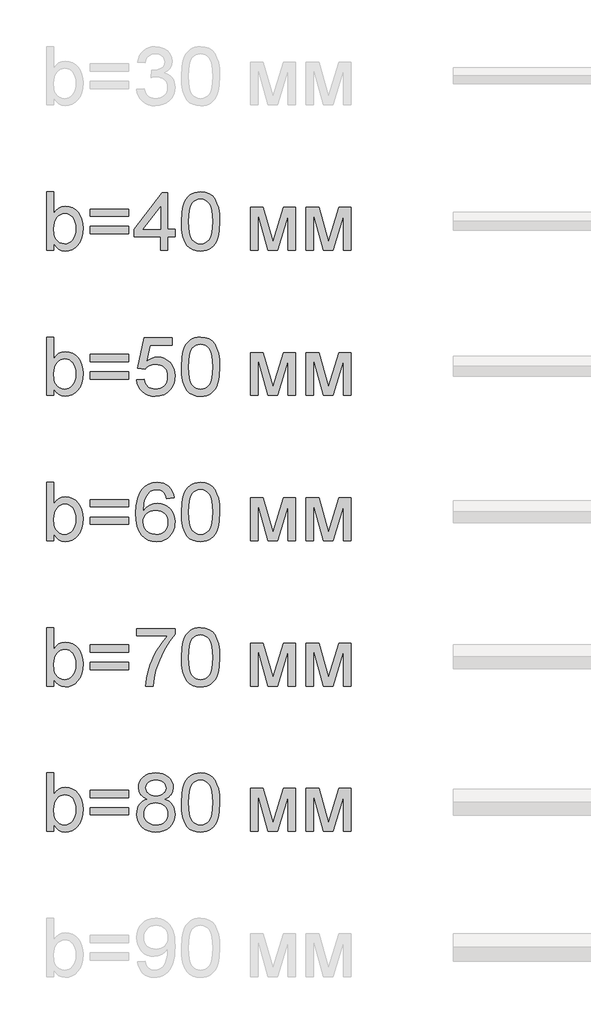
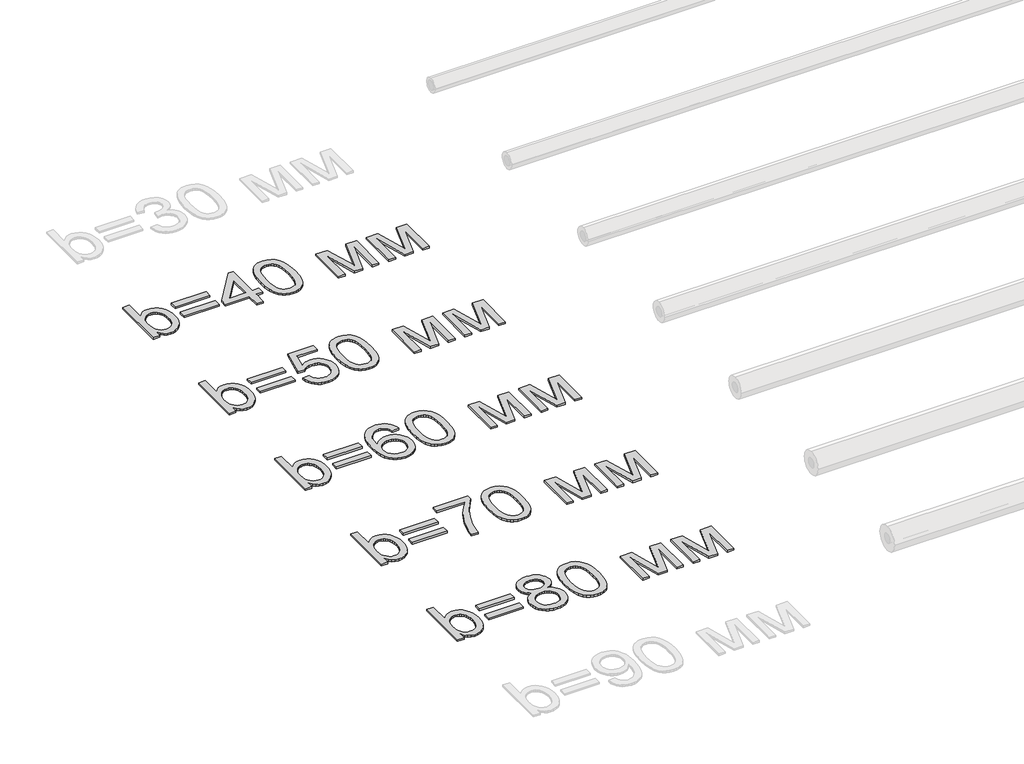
# One storey, part 58 of 86: 5 proxies.
"""IFC4 building model written with IfcOpenShell, lengths in millimetres."""

from ifc_helpers import new_model, si_unit, origin, origin_with_axes, place, context, project, spatial, polyline, outline, extrude, element, save

model = new_model("IFC4")

# Units and contexts
model_context = context("Model", 3, world=origin())
ifc_project = project(units=[si_unit("LENGTHUNIT", "METRE", prefix="MILLI")], contexts=[model_context])

# Site, building, storey
site = spatial("IfcSite", under=ifc_project)
building = spatial("IfcBuilding", under=site)
storey = spatial("IfcBuildingStorey", under=building, Name="Уровень 1", Elevation=0.0)

# Proxies
placement = place(None, origin())
element("IfcBuildingElementProxy", 1, Name="Текст модели 1", ObjectType="Текст модели 1", at=placement, inside=storey, context=model_context, shape_type="SweptSolid", body=[
    extrude(outline(polyline([(23159.6307988, 54669.2937088), (23084.2885662, 54669.2937088), (23084.2885662, 55272.0315697), (23159.6307988, 55272.0315697), (23159.6307988, 55048.5064694), (23184.4076512, 55080.3742473), (23212.3850769, 55103.1369457), (23243.563076, 55116.7945648), (23277.9416484, 55121.3471045), (23316.7531989, 55117.2452202), (23353.4310339, 55104.9395675), (23385.8782258, 55085.2026984), (23411.9978475, 55058.8071653), (23432.4704805, 55026.0104854), (23447.9767066, 54987.0701762), (23457.7439736, 54943.6049185), (23460.9997292, 54897.233393), (23457.6290105, 54843.7249568), (23447.5168541, 54796.6544555), (23430.6632602, 54756.0218892), (23407.0682288, 54721.8272577), (23378.7459136, 54694.7235517), (23347.7104688, 54675.3637617), (23313.9618943, 54663.7478877), (23277.50019, 54659.8759297), (23241.9903805, 54664.8699278), (23210.5088787, 54679.8519221), (23183.0556848, 54704.8219125), (23159.6307988, 54739.7798991), (23159.6307988, 54669.2937088)]), holes=[polyline([(23159.6307988, 54893.7017259), (23164.7811467, 54830.8674811), (23171.2190816, 54807.065516), (23180.2321905, 54788.3403224), (23198.4883345, 54765.0993774), (23219.7059286, 54748.4987024), (23243.8849727, 54738.5382973), (23271.0254669, 54735.2181623), (23293.5582391, 54737.6645776), (23314.5091188, 54745.0038234), (23333.8781058, 54757.2358997), (23351.6652003, 54774.3608066), (23366.5368299, 54796.3325588), (23377.1594225, 54823.105171), (23383.5329781, 54854.6786432), (23385.6574966, 54891.0529755), (23383.6203501, 54928.1170865), (23377.5089104, 54959.9940614), (23367.3231777, 54986.6839001), (23353.0631519, 55008.1866028), (23335.9152524, 55024.7320955), (23317.0658986, 55036.5503046), (23296.5150907, 55043.64123), (23274.2628285, 55046.0048719), (23251.7300563, 55043.5584566), (23230.7791767, 55036.2192108), (23211.4101896, 55023.9871344), (23193.6230951, 55006.8622276), (23178.7514655, 54985.1112046), (23168.1288729, 54959.00078), (23161.7553173, 54928.5309538), (23159.6307988, 54893.7017259)])]), origin_with_axes(), (0.0, 0.0, 1.0), 20.0),
    extrude(outline(polyline([(23931.8886831, 55017.7515346), (23536.3419619, 55017.7515346), (23536.3419619, 55093.0937672), (23931.8886831, 55093.0937672), (23931.8886831, 55017.7515346)])), origin_with_axes(), (0.0, 0.0, 1.0), 20.0),
    extrude(outline(polyline([(23931.8886831, 54838.8137322), (23536.3419619, 54838.8137322), (23536.3419619, 54914.1559648), (23931.8886831, 54914.1559648), (23931.8886831, 54838.8137322)])), origin_with_axes(), (0.0, 0.0, 1.0), 20.0),
    extrude(outline(polyline([(24261.5109507, 54669.2937088), (24261.5109507, 54810.5603949), (23988.3953575, 54810.5603949), (23988.3953575, 54885.9026276), (24280.3465089, 55262.6137906), (24336.8531834, 55262.6137906), (24336.8531834, 54885.9026276), (24412.195416, 54885.9026276), (24412.195416, 54810.5603949), (24336.8531834, 54810.5603949), (24336.8531834, 54669.2937088), (24261.5109507, 54669.2937088)]), holes=[polyline([(24261.5109507, 54885.9026276), (24261.5109507, 55118.6983541), (24081.1016203, 54885.9026276), (24261.5109507, 54885.9026276)])]), origin_with_axes(), (0.0, 0.0, 1.0), 20.0),
    extrude(outline(polyline([(24478.1198695, 54965.8065969), (24483.6564935, 55062.2836501), (24490.5772736, 55103.1967265), (24500.2663656, 55139.2261694), (24512.682383, 55170.6662845), (24527.7839389, 55197.8113772), (24545.5710333, 55220.6614476), (24566.0436664, 55239.2164957), (24589.2708158, 55253.5730906), (24615.3214596, 55263.8278012), (24644.1955977, 55269.9806276), (24675.8932301, 55272.0315697), (24722.3199379, 55267.1755274), (24763.8906034, 55252.6074004), (24798.6554519, 55228.8974058), (24824.664709, 55196.6157607), (24844.3096075, 55156.0383766), (24859.9813805, 55107.4411651), (24870.2452882, 55045.7289604), (24873.6665907, 54965.8065969), (24868.185149, 54869.8813667), (24861.3333468, 54829.106246), (24851.7408238, 54793.1227884), (24839.4213755, 54761.6688778), (24824.3887975, 54734.4823983), (24806.6430897, 54711.56335), (24786.1842523, 54692.9117329), (24762.9295116, 54678.458569), (24736.7960944, 54668.1348805), (24707.7840006, 54661.9406674), (24675.8932301, 54659.8759297), (24634.3961411, 54663.4627792), (24597.6079415, 54674.2233275), (24565.5286316, 54692.1575748), (24538.1582111, 54717.265521), (24511.8914367, 54762.6529621), (24493.1294549, 54819.2056218), (24481.8722659, 54886.9235001), (24478.1198695, 54965.8065969)]), holes=[polyline([(24553.4621021, 54965.9537497), (24555.6693941, 54900.456959), (24562.29127, 54847.440565), (24573.3277299, 54806.9045676), (24588.7787737, 54778.848967), (24607.467179, 54759.7604899), (24628.2157235, 54746.1258635), (24651.0244072, 54737.9450876), (24675.8932301, 54735.2181623), (24700.762053, 54737.9542847), (24723.5707367, 54746.1626517), (24744.3192812, 54759.8432634), (24763.0076866, 54778.9961198), (24778.4587304, 54807.0977057), (24789.4951902, 54847.624506), (24796.1170661, 54900.5765206), (24798.3243581, 54965.9537497), (24796.1906425, 55029.7168965), (24789.7894958, 55081.79979), (24779.120918, 55122.2024301), (24764.184909, 55150.9248169), (24745.8092033, 55170.9467945), (24724.8215355, 55185.248207), (24701.2219055, 55193.8290546), (24675.0103133, 55196.6893371), (24650.2702492, 55194.1693454), (24627.8478415, 55186.6093704), (24607.7430905, 55174.0094121), (24589.955996, 55156.3694704), (24573.9899175, 55125.0995008), (24562.5855756, 55082.9402242), (24555.7429705, 55029.8916405), (24553.4621021, 54965.9537497)])]), origin_with_axes(), (0.0, 0.0, 1.0), 20.0),
    extrude(outline(polyline([(25193.8710793, 55111.9293254), (25323.5126944, 55111.9293254), (25423.4294443, 54757.5853876), (25531.1452925, 55111.9293254), (25655.3422541, 55111.9293254), (25655.3422541, 54669.2937088), (25580.0000215, 54669.2937088), (25580.0000215, 55025.6977857), (25471.6955621, 54669.2937088), (25372.8088818, 54669.2937088), (25269.2133119, 55042.7675103), (25269.2133119, 54669.2937088), (25193.8710793, 54669.2937088), (25193.8710793, 55111.9293254)])), origin_with_axes(), (0.0, 0.0, 1.0), 20.0),
    extrude(outline(polyline([(25768.355603, 55111.9293254), (25897.9972181, 55111.9293254), (25997.913968, 54757.5853876), (26105.6298162, 55111.9293254), (26229.8267777, 55111.9293254), (26229.8267777, 54669.2937088), (26154.4845451, 54669.2937088), (26154.4845451, 55025.6977857), (26046.1800857, 54669.2937088), (25947.2934054, 54669.2937088), (25843.6978356, 55042.7675103), (25843.6978356, 54669.2937088), (25768.355603, 54669.2937088), (25768.355603, 55111.9293254)])), origin_with_axes(), (0.0, 0.0, 1.0), 20.0),
])
element("IfcBuildingElementProxy", 2, Name="Текст модели 1", ObjectType="Текст модели 1", at=placement, inside=storey, context=model_context, shape_type="SweptSolid", body=[
    extrude(outline(polyline([(23159.6307988, 53169.2937088), (23084.2885662, 53169.2937088), (23084.2885662, 53772.0315697), (23159.6307988, 53772.0315697), (23159.6307988, 53548.5064694), (23184.4076512, 53580.3742473), (23212.3850769, 53603.1369457), (23243.563076, 53616.7945648), (23277.9416484, 53621.3471045), (23316.7531989, 53617.2452202), (23353.4310339, 53604.9395675), (23385.8782258, 53585.2026984), (23411.9978475, 53558.8071653), (23432.4704805, 53526.0104854), (23447.9767066, 53487.0701762), (23457.7439736, 53443.6049185), (23460.9997292, 53397.233393), (23457.6290105, 53343.7249568), (23447.5168541, 53296.6544555), (23430.6632602, 53256.0218892), (23407.0682288, 53221.8272577), (23378.7459136, 53194.7235517), (23347.7104688, 53175.3637617), (23313.9618943, 53163.7478877), (23277.50019, 53159.8759297), (23241.9903805, 53164.8699278), (23210.5088787, 53179.8519221), (23183.0556848, 53204.8219125), (23159.6307988, 53239.7798991), (23159.6307988, 53169.2937088)]), holes=[polyline([(23159.6307988, 53393.7017259), (23164.7811467, 53330.8674811), (23171.2190816, 53307.065516), (23180.2321905, 53288.3403224), (23198.4883345, 53265.0993774), (23219.7059286, 53248.4987024), (23243.8849727, 53238.5382973), (23271.0254669, 53235.2181623), (23293.5582391, 53237.6645776), (23314.5091188, 53245.0038234), (23333.8781058, 53257.2358997), (23351.6652003, 53274.3608066), (23366.5368299, 53296.3325588), (23377.1594225, 53323.105171), (23383.5329781, 53354.6786432), (23385.6574966, 53391.0529755), (23383.6203501, 53428.1170865), (23377.5089104, 53459.9940614), (23367.3231777, 53486.6839001), (23353.0631519, 53508.1866028), (23335.9152524, 53524.7320955), (23317.0658986, 53536.5503046), (23296.5150907, 53543.64123), (23274.2628285, 53546.0048719), (23251.7300563, 53543.5584566), (23230.7791767, 53536.2192108), (23211.4101896, 53523.9871344), (23193.6230951, 53506.8622276), (23178.7514655, 53485.1112046), (23168.1288729, 53459.00078), (23161.7553173, 53428.5309538), (23159.6307988, 53393.7017259)])]), origin_with_axes(), (0.0, 0.0, 1.0), 20.0),
    extrude(outline(polyline([(23931.8886831, 53517.7515346), (23536.3419619, 53517.7515346), (23536.3419619, 53593.0937672), (23931.8886831, 53593.0937672), (23931.8886831, 53517.7515346)])), origin_with_axes(), (0.0, 0.0, 1.0), 20.0),
    extrude(outline(polyline([(23931.8886831, 53338.8137322), (23536.3419619, 53338.8137322), (23536.3419619, 53414.1559648), (23931.8886831, 53414.1559648), (23931.8886831, 53338.8137322)])), origin_with_axes(), (0.0, 0.0, 1.0), 20.0),
    extrude(outline(polyline([(24016.6486948, 53329.3959531), (24091.9909274, 53338.8137322), (24097.6195219, 53314.5933013), (24105.8232904, 53293.5826409), (24116.6022328, 53275.7817508), (24129.9563493, 53261.1906312), (24145.8580485, 53249.8276761), (24164.2797394, 53241.7112795), (24185.221422, 53236.8414416), (24208.6830962, 53235.2181623), (24237.3778919, 53237.4760381), (24262.6881731, 53244.2496653), (24284.61394, 53255.539044), (24303.1551926, 53271.3441743), (24317.8980636, 53290.8833067), (24328.4286857, 53313.3746922), (24334.7470589, 53338.8183307), (24336.8531834, 53367.2142222), (24334.8804162, 53394.0512138), (24328.9621146, 53417.9083611), (24319.0982786, 53438.7856644), (24305.2889082, 53456.6831234), (24287.4880181, 53471.0397183), (24265.6496232, 53481.2944289), (24239.7737234, 53487.4472553), (24209.8603186, 53489.4981974), (24173.3112424, 53486.2240476), (24143.7151359, 53476.4015984), (24120.0787177, 53461.3552248), (24101.4087064, 53442.409302), (24026.0664738, 53451.8270811), (24091.9909274, 53762.6137906), (24383.9420787, 53762.6137906), (24383.9420787, 53687.271558), (24152.9121858, 53687.271558), (24120.685723, 53521.2832018), (24147.2743942, 53540.3394891), (24174.5068589, 53553.951123), (24202.3831171, 53562.1181032), (24230.9031687, 53564.84043), (24267.5947992, 53561.4651127), (24301.2973885, 53551.3391608), (24332.0109366, 53534.4625743), (24359.7354435, 53510.8353531), (24382.6866814, 53481.9014342), (24399.0804228, 53449.1047543), (24408.9166677, 53412.4453135), (24412.195416, 53371.9231117), (24409.243163, 53332.8908321), (24400.3864039, 53296.5808791), (24385.6251389, 53262.993253), (24364.9593678, 53232.1279536), (24333.65261, 53200.5176931), (24297.1219279, 53177.9389357), (24255.3673214, 53164.3916812), (24208.3887906, 53159.8759297), (24169.5082623, 53162.777599), (24134.3893273, 53171.4826067), (24103.0319858, 53185.9909529), (24075.4362376, 53206.3026375), (24052.4758026, 53231.4059852), (24035.0244004, 53260.2893203), (24023.0820311, 53292.952643), (24016.6486948, 53329.3959531)])), origin_with_axes(), (0.0, 0.0, 1.0), 20.0),
    extrude(outline(polyline([(24478.1198695, 53465.8065969), (24483.6564935, 53562.2836501), (24490.5772736, 53603.1967265), (24500.2663656, 53639.2261694), (24512.682383, 53670.6662845), (24527.7839389, 53697.8113772), (24545.5710333, 53720.6614476), (24566.0436664, 53739.2164957), (24589.2708158, 53753.5730906), (24615.3214596, 53763.8278012), (24644.1955977, 53769.9806276), (24675.8932301, 53772.0315697), (24722.3199379, 53767.1755274), (24763.8906034, 53752.6074004), (24798.6554519, 53728.8974058), (24824.664709, 53696.6157607), (24844.3096075, 53656.0383766), (24859.9813805, 53607.4411651), (24870.2452882, 53545.7289604), (24873.6665907, 53465.8065969), (24868.185149, 53369.8813667), (24861.3333468, 53329.106246), (24851.7408238, 53293.1227884), (24839.4213755, 53261.6688778), (24824.3887975, 53234.4823983), (24806.6430897, 53211.56335), (24786.1842523, 53192.9117329), (24762.9295116, 53178.458569), (24736.7960944, 53168.1348805), (24707.7840006, 53161.9406674), (24675.8932301, 53159.8759297), (24634.3961411, 53163.4627792), (24597.6079415, 53174.2233275), (24565.5286316, 53192.1575748), (24538.1582111, 53217.265521), (24511.8914367, 53262.6529621), (24493.1294549, 53319.2056218), (24481.8722659, 53386.9235001), (24478.1198695, 53465.8065969)]), holes=[polyline([(24553.4621021, 53465.9537497), (24555.6693941, 53400.456959), (24562.29127, 53347.440565), (24573.3277299, 53306.9045676), (24588.7787737, 53278.848967), (24607.467179, 53259.7604899), (24628.2157235, 53246.1258635), (24651.0244072, 53237.9450876), (24675.8932301, 53235.2181623), (24700.762053, 53237.9542847), (24723.5707367, 53246.1626517), (24744.3192812, 53259.8432634), (24763.0076866, 53278.9961198), (24778.4587304, 53307.0977057), (24789.4951902, 53347.624506), (24796.1170661, 53400.5765206), (24798.3243581, 53465.9537497), (24796.1906425, 53529.7168965), (24789.7894958, 53581.79979), (24779.120918, 53622.2024301), (24764.184909, 53650.9248169), (24745.8092033, 53670.9467945), (24724.8215355, 53685.248207), (24701.2219055, 53693.8290546), (24675.0103133, 53696.6893371), (24650.2702492, 53694.1693454), (24627.8478415, 53686.6093704), (24607.7430905, 53674.0094121), (24589.955996, 53656.3694704), (24573.9899175, 53625.0995008), (24562.5855756, 53582.9402242), (24555.7429705, 53529.8916405), (24553.4621021, 53465.9537497)])]), origin_with_axes(), (0.0, 0.0, 1.0), 20.0),
    extrude(outline(polyline([(25193.8710793, 53611.9293254), (25323.5126944, 53611.9293254), (25423.4294443, 53257.5853876), (25531.1452925, 53611.9293254), (25655.3422541, 53611.9293254), (25655.3422541, 53169.2937088), (25580.0000215, 53169.2937088), (25580.0000215, 53525.6977857), (25471.6955621, 53169.2937088), (25372.8088818, 53169.2937088), (25269.2133119, 53542.7675103), (25269.2133119, 53169.2937088), (25193.8710793, 53169.2937088), (25193.8710793, 53611.9293254)])), origin_with_axes(), (0.0, 0.0, 1.0), 20.0),
    extrude(outline(polyline([(25768.355603, 53611.9293254), (25897.9972181, 53611.9293254), (25997.913968, 53257.5853876), (26105.6298162, 53611.9293254), (26229.8267777, 53611.9293254), (26229.8267777, 53169.2937088), (26154.4845451, 53169.2937088), (26154.4845451, 53525.6977857), (26046.1800857, 53169.2937088), (25947.2934054, 53169.2937088), (25843.6978356, 53542.7675103), (25843.6978356, 53169.2937088), (25768.355603, 53169.2937088), (25768.355603, 53611.9293254)])), origin_with_axes(), (0.0, 0.0, 1.0), 20.0),
])
element("IfcBuildingElementProxy", 3, Name="Текст модели 1", ObjectType="Текст модели 1", at=placement, inside=storey, context=model_context, shape_type="SweptSolid", body=[
    extrude(outline(polyline([(23159.6307988, 51669.2937088), (23084.2885662, 51669.2937088), (23084.2885662, 52272.0315697), (23159.6307988, 52272.0315697), (23159.6307988, 52048.5064694), (23184.4076512, 52080.3742473), (23212.3850769, 52103.1369457), (23243.563076, 52116.7945648), (23277.9416484, 52121.3471045), (23316.7531989, 52117.2452202), (23353.4310339, 52104.9395675), (23385.8782258, 52085.2026984), (23411.9978475, 52058.8071653), (23432.4704805, 52026.0104854), (23447.9767066, 51987.0701762), (23457.7439736, 51943.6049185), (23460.9997292, 51897.233393), (23457.6290105, 51843.7249568), (23447.5168541, 51796.6544555), (23430.6632602, 51756.0218892), (23407.0682288, 51721.8272577), (23378.7459136, 51694.7235517), (23347.7104688, 51675.3637617), (23313.9618943, 51663.7478877), (23277.50019, 51659.8759297), (23241.9903805, 51664.8699278), (23210.5088787, 51679.8519221), (23183.0556848, 51704.8219125), (23159.6307988, 51739.7798991), (23159.6307988, 51669.2937088)]), holes=[polyline([(23159.6307988, 51893.7017259), (23164.7811467, 51830.8674811), (23171.2190816, 51807.065516), (23180.2321905, 51788.3403224), (23198.4883345, 51765.0993774), (23219.7059286, 51748.4987024), (23243.8849727, 51738.5382973), (23271.0254669, 51735.2181623), (23293.5582391, 51737.6645776), (23314.5091188, 51745.0038234), (23333.8781058, 51757.2358997), (23351.6652003, 51774.3608066), (23366.5368299, 51796.3325588), (23377.1594225, 51823.105171), (23383.5329781, 51854.6786432), (23385.6574966, 51891.0529755), (23383.6203501, 51928.1170865), (23377.5089104, 51959.9940614), (23367.3231777, 51986.6839001), (23353.0631519, 52008.1866028), (23335.9152524, 52024.7320955), (23317.0658986, 52036.5503046), (23296.5150907, 52043.64123), (23274.2628285, 52046.0048719), (23251.7300563, 52043.5584566), (23230.7791767, 52036.2192108), (23211.4101896, 52023.9871344), (23193.6230951, 52006.8622276), (23178.7514655, 51985.1112046), (23168.1288729, 51959.00078), (23161.7553173, 51928.5309538), (23159.6307988, 51893.7017259)])]), origin_with_axes(), (0.0, 0.0, 1.0), 20.0),
    extrude(outline(polyline([(23931.8886831, 52017.7515346), (23536.3419619, 52017.7515346), (23536.3419619, 52093.0937672), (23931.8886831, 52093.0937672), (23931.8886831, 52017.7515346)])), origin_with_axes(), (0.0, 0.0, 1.0), 20.0),
    extrude(outline(polyline([(23931.8886831, 51838.8137322), (23536.3419619, 51838.8137322), (23536.3419619, 51914.1559648), (23931.8886831, 51914.1559648), (23931.8886831, 51838.8137322)])), origin_with_axes(), (0.0, 0.0, 1.0), 20.0),
    extrude(outline(polyline([(24402.7776369, 52111.9293254), (24327.4354043, 52102.5115463), (24315.2952984, 52139.8515688), (24298.8877615, 52165.3457911), (24282.6917566, 52179.0585925), (24264.7115241, 52188.8534506), (24244.9470639, 52194.7303655), (24223.398376, 52196.6893371), (24188.3760101, 52192.1276003), (24155.4137833, 52178.4423901), (24127.1052638, 52149.6188358), (24103.9838804, 52109.9427626), (24094.9477789, 52084.6370799), (24088.3672897, 52053.8223643), (24082.5731483, 51975.6658344), (24112.7946542, 52010.9273236), (24149.0126366, 52035.7777524), (24189.2037446, 52050.5114263), (24231.3446271, 52055.4226509), (24267.5442155, 52052.0657277), (24300.9479006, 52041.9949581), (24331.5556826, 52025.2103421), (24359.3675615, 52001.7118796), (24382.4797478, 51972.8975224), (24398.9884523, 51940.1652218), (24408.8936751, 51903.5149781), (24412.195416, 51862.9467911), (24410.6411145, 51835.4798016), (24405.9782103, 51808.9968965), (24398.2067031, 51783.4980757), (24387.3265931, 51758.9833392), (24373.7241563, 51736.3677936), (24357.7856689, 51716.5665452), (24339.5111308, 51699.5795941), (24318.900542, 51685.4069402), (24296.3953609, 51674.2371231), (24272.437046, 51666.2586823), (24247.0255972, 51661.4716179), (24220.1610145, 51659.8759297), (24175.2472214, 51664.1065727), (24134.6836329, 51676.7985015), (24098.470249, 51697.9517162), (24066.6070697, 51727.5662168), (24040.6300023, 51766.8928021), (24022.0749542, 51817.1822709), (24010.9419253, 51878.4346231), (24007.2309157, 51950.6498587), (24011.351194, 52031.6114888), (24023.7120291, 52100.7089245), (24044.3134208, 52157.9421659), (24057.7043254, 52182.1097138), (24073.1553692, 52203.311213), (24104.4161418, 52233.3763691), (24140.6617153, 52254.8514805), (24181.8920899, 52267.7365474), (24228.1072656, 52272.0315697), (24262.8077348, 52269.3736223), (24294.2156601, 52261.39978), (24322.3310416, 52248.110043), (24347.1538792, 52229.5044111), (24368.0127884, 52206.2082837), (24384.2363843, 52178.8470603), (24395.8246672, 52147.4207409), (24402.7776369, 52111.9293254)]), holes=[polyline([(24082.5731483, 51864.1240134), (24086.9325499, 51830.7387224), (24100.0107549, 51798.8617475), (24120.317841, 51771.4545389), (24146.3638863, 51751.4785465), (24177.7994027, 51739.2832584), (24214.2749026, 51735.2181623), (24240.4635021, 51737.3242868), (24263.9941542, 51743.64266), (24284.8668589, 51754.1732821), (24303.0816162, 51768.9161531), (24317.8566768, 51787.2734647), (24328.4102916, 51808.6474086), (24334.7424604, 51833.0379849), (24336.8531834, 51860.4451935), (24334.7700516, 51886.7809458), (24328.5206562, 51910.1644451), (24318.1049972, 51930.5956914), (24303.5230746, 51948.0746847), (24285.253135, 51962.0771932), (24263.773425, 51972.0789849), (24239.0839446, 51978.08006), (24211.1846938, 51980.0804183), (24185.3455822, 51978.08006), (24161.5390186, 51972.0789849), (24139.765003, 51962.0771932), (24120.0235354, 51948.0746847), (24103.638991, 51930.8256177), (24091.9357451, 51911.0841501), (24084.9137975, 51888.850282), (24082.5731483, 51864.1240134)])]), origin_with_axes(), (0.0, 0.0, 1.0), 20.0),
    extrude(outline(polyline([(24478.1198695, 51965.8065969), (24483.6564935, 52062.2836501), (24490.5772736, 52103.1967265), (24500.2663656, 52139.2261694), (24512.682383, 52170.6662845), (24527.7839389, 52197.8113772), (24545.5710333, 52220.6614476), (24566.0436664, 52239.2164957), (24589.2708158, 52253.5730906), (24615.3214596, 52263.8278012), (24644.1955977, 52269.9806276), (24675.8932301, 52272.0315697), (24722.3199379, 52267.1755274), (24763.8906034, 52252.6074004), (24798.6554519, 52228.8974058), (24824.664709, 52196.6157607), (24844.3096075, 52156.0383766), (24859.9813805, 52107.4411651), (24870.2452882, 52045.7289604), (24873.6665907, 51965.8065969), (24868.185149, 51869.8813667), (24861.3333468, 51829.106246), (24851.7408238, 51793.1227884), (24839.4213755, 51761.6688778), (24824.3887975, 51734.4823983), (24806.6430897, 51711.56335), (24786.1842523, 51692.9117329), (24762.9295116, 51678.458569), (24736.7960944, 51668.1348805), (24707.7840006, 51661.9406674), (24675.8932301, 51659.8759297), (24634.3961411, 51663.4627792), (24597.6079415, 51674.2233275), (24565.5286316, 51692.1575748), (24538.1582111, 51717.265521), (24511.8914367, 51762.6529621), (24493.1294549, 51819.2056218), (24481.8722659, 51886.9235001), (24478.1198695, 51965.8065969)]), holes=[polyline([(24553.4621021, 51965.9537497), (24555.6693941, 51900.456959), (24562.29127, 51847.440565), (24573.3277299, 51806.9045676), (24588.7787737, 51778.848967), (24607.467179, 51759.7604899), (24628.2157235, 51746.1258635), (24651.0244072, 51737.9450876), (24675.8932301, 51735.2181623), (24700.762053, 51737.9542847), (24723.5707367, 51746.1626517), (24744.3192812, 51759.8432634), (24763.0076866, 51778.9961198), (24778.4587304, 51807.0977057), (24789.4951902, 51847.624506), (24796.1170661, 51900.5765206), (24798.3243581, 51965.9537497), (24796.1906425, 52029.7168965), (24789.7894958, 52081.79979), (24779.120918, 52122.2024301), (24764.184909, 52150.9248169), (24745.8092033, 52170.9467945), (24724.8215355, 52185.248207), (24701.2219055, 52193.8290546), (24675.0103133, 52196.6893371), (24650.2702492, 52194.1693454), (24627.8478415, 52186.6093704), (24607.7430905, 52174.0094121), (24589.955996, 52156.3694704), (24573.9899175, 52125.0995008), (24562.5855756, 52082.9402242), (24555.7429705, 52029.8916405), (24553.4621021, 51965.9537497)])]), origin_with_axes(), (0.0, 0.0, 1.0), 20.0),
    extrude(outline(polyline([(25193.8710793, 52111.9293254), (25323.5126944, 52111.9293254), (25423.4294443, 51757.5853876), (25531.1452925, 52111.9293254), (25655.3422541, 52111.9293254), (25655.3422541, 51669.2937088), (25580.0000215, 51669.2937088), (25580.0000215, 52025.6977857), (25471.6955621, 51669.2937088), (25372.8088818, 51669.2937088), (25269.2133119, 52042.7675103), (25269.2133119, 51669.2937088), (25193.8710793, 51669.2937088), (25193.8710793, 52111.9293254)])), origin_with_axes(), (0.0, 0.0, 1.0), 20.0),
    extrude(outline(polyline([(25768.355603, 52111.9293254), (25897.9972181, 52111.9293254), (25997.913968, 51757.5853876), (26105.6298162, 52111.9293254), (26229.8267777, 52111.9293254), (26229.8267777, 51669.2937088), (26154.4845451, 51669.2937088), (26154.4845451, 52025.6977857), (26046.1800857, 51669.2937088), (25947.2934054, 51669.2937088), (25843.6978356, 52042.7675103), (25843.6978356, 51669.2937088), (25768.355603, 51669.2937088), (25768.355603, 52111.9293254)])), origin_with_axes(), (0.0, 0.0, 1.0), 20.0),
])
element("IfcBuildingElementProxy", 4, Name="Текст модели 1", ObjectType="Текст модели 1", at=placement, inside=storey, context=model_context, shape_type="SweptSolid", body=[
    extrude(outline(polyline([(23159.6307988, 50169.2937088), (23084.2885662, 50169.2937088), (23084.2885662, 50772.0315697), (23159.6307988, 50772.0315697), (23159.6307988, 50548.5064694), (23184.4076512, 50580.3742473), (23212.3850769, 50603.1369457), (23243.563076, 50616.7945648), (23277.9416484, 50621.3471045), (23316.7531989, 50617.2452202), (23353.4310339, 50604.9395675), (23385.8782258, 50585.2026984), (23411.9978475, 50558.8071653), (23432.4704805, 50526.0104854), (23447.9767066, 50487.0701762), (23457.7439736, 50443.6049185), (23460.9997292, 50397.233393), (23457.6290105, 50343.7249568), (23447.5168541, 50296.6544555), (23430.6632602, 50256.0218892), (23407.0682288, 50221.8272577), (23378.7459136, 50194.7235517), (23347.7104688, 50175.3637617), (23313.9618943, 50163.7478877), (23277.50019, 50159.8759297), (23241.9903805, 50164.8699278), (23210.5088787, 50179.8519221), (23183.0556848, 50204.8219125), (23159.6307988, 50239.7798991), (23159.6307988, 50169.2937088)]), holes=[polyline([(23159.6307988, 50393.7017259), (23164.7811467, 50330.8674811), (23171.2190816, 50307.065516), (23180.2321905, 50288.3403224), (23198.4883345, 50265.0993774), (23219.7059286, 50248.4987024), (23243.8849727, 50238.5382973), (23271.0254669, 50235.2181623), (23293.5582391, 50237.6645776), (23314.5091188, 50245.0038234), (23333.8781058, 50257.2358997), (23351.6652003, 50274.3608066), (23366.5368299, 50296.3325588), (23377.1594225, 50323.105171), (23383.5329781, 50354.6786432), (23385.6574966, 50391.0529755), (23383.6203501, 50428.1170865), (23377.5089104, 50459.9940614), (23367.3231777, 50486.6839001), (23353.0631519, 50508.1866028), (23335.9152524, 50524.7320955), (23317.0658986, 50536.5503046), (23296.5150907, 50543.64123), (23274.2628285, 50546.0048719), (23251.7300563, 50543.5584566), (23230.7791767, 50536.2192108), (23211.4101896, 50523.9871344), (23193.6230951, 50506.8622276), (23178.7514655, 50485.1112046), (23168.1288729, 50459.00078), (23161.7553173, 50428.5309538), (23159.6307988, 50393.7017259)])]), origin_with_axes(), (0.0, 0.0, 1.0), 20.0),
    extrude(outline(polyline([(23931.8886831, 50517.7515346), (23536.3419619, 50517.7515346), (23536.3419619, 50593.0937672), (23931.8886831, 50593.0937672), (23931.8886831, 50517.7515346)])), origin_with_axes(), (0.0, 0.0, 1.0), 20.0),
    extrude(outline(polyline([(23931.8886831, 50338.8137322), (23536.3419619, 50338.8137322), (23536.3419619, 50414.1559648), (23931.8886831, 50414.1559648), (23931.8886831, 50338.8137322)])), origin_with_axes(), (0.0, 0.0, 1.0), 20.0),
    extrude(outline(polyline([(24016.6486948, 50687.271558), (24016.6486948, 50762.6137906), (24412.195416, 50762.6137906), (24412.195416, 50701.6925322), (24355.8175002, 50630.3418193), (24299.9914074, 50539.6037251), (24250.7504024, 50437.7555948), (24230.861782, 50385.7692703), (24214.1277498, 50333.0747731), (24196.1751084, 50254.7526963), (24186.1687181, 50169.2937088), (24110.8264855, 50169.2937088), (24118.9750717, 50246.953598), (24140.7720799, 50339.2551906), (24156.6415895, 50388.6203558), (24175.628899, 50437.0934072), (24197.7340084, 50484.6743447), (24222.9569177, 50531.3631685), (24278.2127933, 50616.5830326), (24336.8531834, 50687.271558), (24016.6486948, 50687.271558)])), origin_with_axes(), (0.0, 0.0, 1.0), 20.0),
    extrude(outline(polyline([(24478.1198695, 50465.8065969), (24483.6564935, 50562.2836501), (24490.5772736, 50603.1967265), (24500.2663656, 50639.2261694), (24512.682383, 50670.6662845), (24527.7839389, 50697.8113772), (24545.5710333, 50720.6614476), (24566.0436664, 50739.2164957), (24589.2708158, 50753.5730906), (24615.3214596, 50763.8278012), (24644.1955977, 50769.9806276), (24675.8932301, 50772.0315697), (24722.3199379, 50767.1755274), (24763.8906034, 50752.6074004), (24798.6554519, 50728.8974058), (24824.664709, 50696.6157607), (24844.3096075, 50656.0383766), (24859.9813805, 50607.4411651), (24870.2452882, 50545.7289604), (24873.6665907, 50465.8065969), (24868.185149, 50369.8813667), (24861.3333468, 50329.106246), (24851.7408238, 50293.1227884), (24839.4213755, 50261.6688778), (24824.3887975, 50234.4823983), (24806.6430897, 50211.56335), (24786.1842523, 50192.9117329), (24762.9295116, 50178.458569), (24736.7960944, 50168.1348805), (24707.7840006, 50161.9406674), (24675.8932301, 50159.8759297), (24634.3961411, 50163.4627792), (24597.6079415, 50174.2233275), (24565.5286316, 50192.1575748), (24538.1582111, 50217.265521), (24511.8914367, 50262.6529621), (24493.1294549, 50319.2056218), (24481.8722659, 50386.9235001), (24478.1198695, 50465.8065969)]), holes=[polyline([(24553.4621021, 50465.9537497), (24555.6693941, 50400.456959), (24562.29127, 50347.440565), (24573.3277299, 50306.9045676), (24588.7787737, 50278.848967), (24607.467179, 50259.7604899), (24628.2157235, 50246.1258635), (24651.0244072, 50237.9450876), (24675.8932301, 50235.2181623), (24700.762053, 50237.9542847), (24723.5707367, 50246.1626517), (24744.3192812, 50259.8432634), (24763.0076866, 50278.9961198), (24778.4587304, 50307.0977057), (24789.4951902, 50347.624506), (24796.1170661, 50400.5765206), (24798.3243581, 50465.9537497), (24796.1906425, 50529.7168965), (24789.7894958, 50581.79979), (24779.120918, 50622.2024301), (24764.184909, 50650.9248169), (24745.8092033, 50670.9467945), (24724.8215355, 50685.248207), (24701.2219055, 50693.8290546), (24675.0103133, 50696.6893371), (24650.2702492, 50694.1693454), (24627.8478415, 50686.6093704), (24607.7430905, 50674.0094121), (24589.955996, 50656.3694704), (24573.9899175, 50625.0995008), (24562.5855756, 50582.9402242), (24555.7429705, 50529.8916405), (24553.4621021, 50465.9537497)])]), origin_with_axes(), (0.0, 0.0, 1.0), 20.0),
    extrude(outline(polyline([(25193.8710793, 50611.9293254), (25323.5126944, 50611.9293254), (25423.4294443, 50257.5853876), (25531.1452925, 50611.9293254), (25655.3422541, 50611.9293254), (25655.3422541, 50169.2937088), (25580.0000215, 50169.2937088), (25580.0000215, 50525.6977857), (25471.6955621, 50169.2937088), (25372.8088818, 50169.2937088), (25269.2133119, 50542.7675103), (25269.2133119, 50169.2937088), (25193.8710793, 50169.2937088), (25193.8710793, 50611.9293254)])), origin_with_axes(), (0.0, 0.0, 1.0), 20.0),
    extrude(outline(polyline([(25768.355603, 50611.9293254), (25897.9972181, 50611.9293254), (25997.913968, 50257.5853876), (26105.6298162, 50611.9293254), (26229.8267777, 50611.9293254), (26229.8267777, 50169.2937088), (26154.4845451, 50169.2937088), (26154.4845451, 50525.6977857), (26046.1800857, 50169.2937088), (25947.2934054, 50169.2937088), (25843.6978356, 50542.7675103), (25843.6978356, 50169.2937088), (25768.355603, 50169.2937088), (25768.355603, 50611.9293254)])), origin_with_axes(), (0.0, 0.0, 1.0), 20.0),
])
element("IfcBuildingElementProxy", 5, Name="Текст модели 1", ObjectType="Текст модели 1", at=placement, inside=storey, context=model_context, shape_type="SweptSolid", body=[
    extrude(outline(polyline([(23159.6307988, 48669.2937088), (23084.2885662, 48669.2937088), (23084.2885662, 49272.0315697), (23159.6307988, 49272.0315697), (23159.6307988, 49048.5064694), (23184.4076512, 49080.3742473), (23212.3850769, 49103.1369457), (23243.563076, 49116.7945648), (23277.9416484, 49121.3471045), (23316.7531989, 49117.2452202), (23353.4310339, 49104.9395675), (23385.8782258, 49085.2026984), (23411.9978475, 49058.8071653), (23432.4704805, 49026.0104854), (23447.9767066, 48987.0701762), (23457.7439736, 48943.6049185), (23460.9997292, 48897.233393), (23457.6290105, 48843.7249568), (23447.5168541, 48796.6544555), (23430.6632602, 48756.0218892), (23407.0682288, 48721.8272577), (23378.7459136, 48694.7235517), (23347.7104688, 48675.3637617), (23313.9618943, 48663.7478877), (23277.50019, 48659.8759297), (23241.9903805, 48664.8699278), (23210.5088787, 48679.8519221), (23183.0556848, 48704.8219125), (23159.6307988, 48739.7798991), (23159.6307988, 48669.2937088)]), holes=[polyline([(23159.6307988, 48893.7017259), (23164.7811467, 48830.8674811), (23171.2190816, 48807.065516), (23180.2321905, 48788.3403224), (23198.4883345, 48765.0993774), (23219.7059286, 48748.4987024), (23243.8849727, 48738.5382973), (23271.0254669, 48735.2181623), (23293.5582391, 48737.6645776), (23314.5091188, 48745.0038234), (23333.8781058, 48757.2358997), (23351.6652003, 48774.3608066), (23366.5368299, 48796.3325588), (23377.1594225, 48823.105171), (23383.5329781, 48854.6786432), (23385.6574966, 48891.0529755), (23383.6203501, 48928.1170865), (23377.5089104, 48959.9940614), (23367.3231777, 48986.6839001), (23353.0631519, 49008.1866028), (23335.9152524, 49024.7320955), (23317.0658986, 49036.5503046), (23296.5150907, 49043.64123), (23274.2628285, 49046.0048719), (23251.7300563, 49043.5584566), (23230.7791767, 49036.2192108), (23211.4101896, 49023.9871344), (23193.6230951, 49006.8622276), (23178.7514655, 48985.1112046), (23168.1288729, 48959.00078), (23161.7553173, 48928.5309538), (23159.6307988, 48893.7017259)])]), origin_with_axes(), (0.0, 0.0, 1.0), 20.0),
    extrude(outline(polyline([(23931.8886831, 49017.7515346), (23536.3419619, 49017.7515346), (23536.3419619, 49093.0937672), (23931.8886831, 49093.0937672), (23931.8886831, 49017.7515346)])), origin_with_axes(), (0.0, 0.0, 1.0), 20.0),
    extrude(outline(polyline([(23931.8886831, 48838.8137322), (23536.3419619, 48838.8137322), (23536.3419619, 48914.1559648), (23931.8886831, 48914.1559648), (23931.8886831, 48838.8137322)])), origin_with_axes(), (0.0, 0.0, 1.0), 20.0),
    extrude(outline(polyline([(24126.4246821, 49001.2704212), (24086.0864213, 49021.136049), (24070.4284439, 49033.7176132), (24057.7779018, 49048.065011), (24041.0576651, 49081.5054844), (24035.4842529, 49120.9056461), (24038.5192794, 49151.6329897), (24047.6243588, 49179.8035535), (24062.7994911, 49205.4173374), (24084.0446763, 49228.4743415), (24110.3390419, 49247.5306288), (24140.6617153, 49261.1422626), (24175.0126966, 49269.3092429), (24213.3919858, 49272.0315697), (24251.9552159, 49269.2448636), (24286.5637146, 49260.8847452), (24317.2174819, 49246.9512147), (24343.9165177, 49227.4442719), (24365.547979, 49203.9366124), (24380.9990228, 49178.0009317), (24390.2696491, 49149.6372299), (24393.3598578, 49118.8455069), (24387.860022, 49080.7145381), (24371.3605145, 49047.8442818), (24358.9398986, 49033.593453), (24343.6773944, 49021.0808667), (24304.6267206, 49001.2704212), (24329.3897774, 48990.7352006), (24350.9982461, 48977.3764857), (24369.4521267, 48961.1942764), (24384.7514191, 48942.1885728), (24396.7581677, 48920.7824392), (24405.3344168, 48897.3989399), (24410.4801662, 48872.0380749), (24412.195416, 48844.6998441), (24408.7925075, 48807.1206983), (24398.5837822, 48772.6685494), (24381.5692399, 48741.3433976), (24357.7488807, 48713.1452426), (24328.3735034, 48689.8399182), (24294.6939067, 48673.1932579), (24256.7100907, 48663.2052618), (24214.4220554, 48659.8759297), (24172.13402, 48663.2190574), (24134.150204, 48673.2484402), (24100.4706074, 48689.9640784), (24071.09523, 48713.3659718), (24047.2748709, 48741.7618633), (24030.2603286, 48773.4594957), (24020.0516032, 48808.458869), (24016.6486948, 48846.7599833), (24018.4329224, 48875.3444143), (24023.7856055, 48901.5008242), (24032.7067438, 48925.2292128), (24045.1963376, 48946.5295804), (24060.9784752, 48965.0156506), (24079.7772451, 48980.3011475), (24101.5926474, 48992.3860711), (24126.4246821, 49001.2704212)]), holes=[polyline([(24110.8264855, 49118.6983541), (24112.4957501, 49101.4262944), (24117.5035437, 49085.8097037), (24125.8498665, 49071.848582), (24137.5347184, 49059.5429293), (24152.4109466, 49049.4997508), (24170.3313982, 49042.3260519), (24191.2960734, 49038.0218326), (24215.3049722, 49036.5870928), (24238.7206611, 49038.0126355), (24259.2300824, 49042.2892637), (24276.8332358, 49049.4169774), (24291.5301216, 49059.3957765), (24303.1184044, 49071.4439118), (24311.3957493, 49084.7796342), (24316.3621562, 49099.4029435), (24318.0176252, 49115.3138398), (24316.3069739, 49131.8455369), (24311.1750201, 49147.0068736), (24302.6217637, 49160.7978499), (24290.6472048, 49173.2184658), (24275.6192253, 49183.486972), (24257.9057072, 49190.8216193), (24237.5066506, 49195.2224076), (24214.4220554, 49196.6893371), (24191.1581177, 49195.2545973), (24170.662492, 49190.950378), (24152.9351784, 49183.7766791), (24137.9761768, 49173.7335006), (24126.0981868, 49161.6853652), (24117.6139083, 49148.4967957), (24112.5233412, 49134.167792), (24110.8264855, 49118.6983541)]), polyline([(24091.9909274, 48849.4087336), (24095.1363184, 48820.5851793), (24104.5724916, 48792.68133), (24121.9917041, 48768.345936), (24149.086213, 48750.2277477), (24181.533405, 48738.9705587), (24215.0106666, 48735.2181623), (24242.2523283, 48737.1909295), (24266.2934167, 48743.1092311), (24287.1339317, 48752.9730671), (24304.7738734, 48766.7824375), (24318.8085715, 48783.6360314), (24328.8333559, 48802.632538), (24334.8482265, 48823.7719571), (24336.8531834, 48847.0542889), (24334.7838471, 48870.7091012), (24328.5758385, 48892.2301979), (24318.2291574, 48911.617579), (24303.7438038, 48928.8712446), (24285.6256155, 48943.0347014), (24264.3804303, 48953.1514563), (24240.0082481, 48959.2215092), (24212.509069, 48961.2448602), (24185.6674789, 48959.2491003), (24161.9436888, 48953.2618209), (24141.3376985, 48943.2830218), (24123.8495082, 48929.312703), (24109.9113791, 48912.344146), (24099.9555726, 48893.3706321), (24093.9820887, 48872.3921613), (24091.9909274, 48849.4087336)])]), origin_with_axes(), (0.0, 0.0, 1.0), 20.0),
    extrude(outline(polyline([(24478.1198695, 48965.8065969), (24483.6564935, 49062.2836501), (24490.5772736, 49103.1967265), (24500.2663656, 49139.2261694), (24512.682383, 49170.6662845), (24527.7839389, 49197.8113772), (24545.5710333, 49220.6614476), (24566.0436664, 49239.2164957), (24589.2708158, 49253.5730906), (24615.3214596, 49263.8278012), (24644.1955977, 49269.9806276), (24675.8932301, 49272.0315697), (24722.3199379, 49267.1755274), (24763.8906034, 49252.6074004), (24798.6554519, 49228.8974058), (24824.664709, 49196.6157607), (24844.3096075, 49156.0383766), (24859.9813805, 49107.4411651), (24870.2452882, 49045.7289604), (24873.6665907, 48965.8065969), (24868.185149, 48869.8813667), (24861.3333468, 48829.106246), (24851.7408238, 48793.1227884), (24839.4213755, 48761.6688778), (24824.3887975, 48734.4823983), (24806.6430897, 48711.56335), (24786.1842523, 48692.9117329), (24762.9295116, 48678.458569), (24736.7960944, 48668.1348805), (24707.7840006, 48661.9406674), (24675.8932301, 48659.8759297), (24634.3961411, 48663.4627792), (24597.6079415, 48674.2233275), (24565.5286316, 48692.1575748), (24538.1582111, 48717.265521), (24511.8914367, 48762.6529621), (24493.1294549, 48819.2056218), (24481.8722659, 48886.9235001), (24478.1198695, 48965.8065969)]), holes=[polyline([(24553.4621021, 48965.9537497), (24555.6693941, 48900.456959), (24562.29127, 48847.440565), (24573.3277299, 48806.9045676), (24588.7787737, 48778.848967), (24607.467179, 48759.7604899), (24628.2157235, 48746.1258635), (24651.0244072, 48737.9450876), (24675.8932301, 48735.2181623), (24700.762053, 48737.9542847), (24723.5707367, 48746.1626517), (24744.3192812, 48759.8432634), (24763.0076866, 48778.9961198), (24778.4587304, 48807.0977057), (24789.4951902, 48847.624506), (24796.1170661, 48900.5765206), (24798.3243581, 48965.9537497), (24796.1906425, 49029.7168965), (24789.7894958, 49081.79979), (24779.120918, 49122.2024301), (24764.184909, 49150.9248169), (24745.8092033, 49170.9467945), (24724.8215355, 49185.248207), (24701.2219055, 49193.8290546), (24675.0103133, 49196.6893371), (24650.2702492, 49194.1693454), (24627.8478415, 49186.6093704), (24607.7430905, 49174.0094121), (24589.955996, 49156.3694704), (24573.9899175, 49125.0995008), (24562.5855756, 49082.9402242), (24555.7429705, 49029.8916405), (24553.4621021, 48965.9537497)])]), origin_with_axes(), (0.0, 0.0, 1.0), 20.0),
    extrude(outline(polyline([(25193.8710793, 49111.9293254), (25323.5126944, 49111.9293254), (25423.4294443, 48757.5853876), (25531.1452925, 49111.9293254), (25655.3422541, 49111.9293254), (25655.3422541, 48669.2937088), (25580.0000215, 48669.2937088), (25580.0000215, 49025.6977857), (25471.6955621, 48669.2937088), (25372.8088818, 48669.2937088), (25269.2133119, 49042.7675103), (25269.2133119, 48669.2937088), (25193.8710793, 48669.2937088), (25193.8710793, 49111.9293254)])), origin_with_axes(), (0.0, 0.0, 1.0), 20.0),
    extrude(outline(polyline([(25768.355603, 49111.9293254), (25897.9972181, 49111.9293254), (25997.913968, 48757.5853876), (26105.6298162, 49111.9293254), (26229.8267777, 49111.9293254), (26229.8267777, 48669.2937088), (26154.4845451, 48669.2937088), (26154.4845451, 49025.6977857), (26046.1800857, 48669.2937088), (25947.2934054, 48669.2937088), (25843.6978356, 49042.7675103), (25843.6978356, 48669.2937088), (25768.355603, 48669.2937088), (25768.355603, 49111.9293254)])), origin_with_axes(), (0.0, 0.0, 1.0), 20.0),
])

save(model, "model.ifc")
